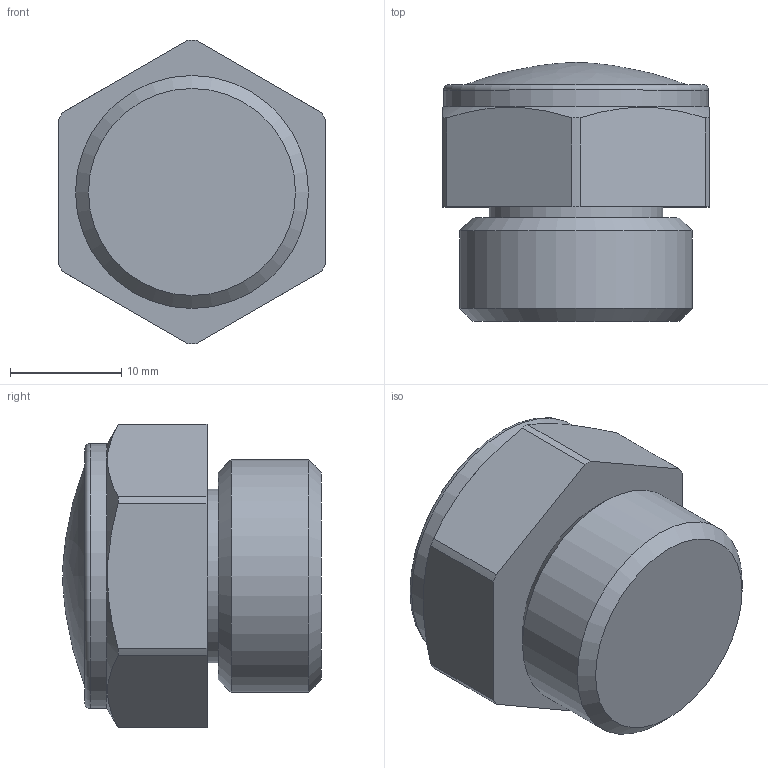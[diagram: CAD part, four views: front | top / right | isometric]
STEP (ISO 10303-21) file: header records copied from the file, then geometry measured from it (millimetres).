
FILE_DESCRIPTION( ( 'STEP AP214' ), '1' );
FILE_NAME( 'p:/temp/worker_3/temp/exporttempdir_5516_1020_1CZVI/format_0/W0970530055.stp', '2021-12-09T08:48:44', ( 'License CC BY-ND 4.0' ), ( 'CADENAS' ), ' ', 'PARTsolutions', ' ' );
FILE_SCHEMA( ( 'AUTOMOTIVE_DESIGN { 1 0 10303 214 1 1 1 1 }' ) );
Length unit declared in the file: millimetre
Products named in the file (1): _W0970530055
Bounding box: 24 x 23.3 x 27.3 mm (x, y, z)
Volume: 8969.2 mm3; surface area: 2734.6 mm2
Topology: 1 solids, 1 shells, 24 faces, 56 edges, 36 vertices
Faces by surface type: plane 10, cylinder 9, cone 3, bspline 1, torus 1
Full cylindrical faces by diameter (mm): 15.6 x1, 20.955 x1, 23.836 x1
Entity records: 921 total; most frequent: CARTESIAN_POINT 199, DIRECTION 110, ORIENTED_EDGE 92, AXIS2_PLACEMENT_3D 46, EDGE_CURVE 46, VERTEX_POINT 35, EDGE_LOOP 34, FACE_OUTER_BOUND 28
